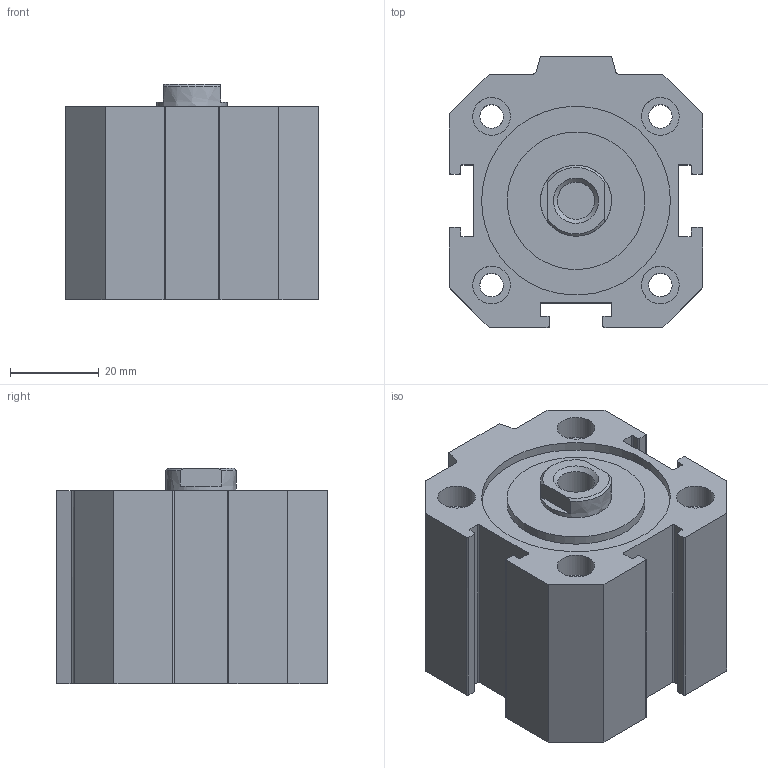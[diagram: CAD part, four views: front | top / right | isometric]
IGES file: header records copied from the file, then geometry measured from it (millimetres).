
Global section: file name: 1512_40_0010; native system: Autodesk Inventor 2014; preprocessor: unknown; author: A. Manieri; date: 20160907.120733; units: millimetre
Bounding box: 57 x 61 x 48.5 mm (x, y, z)
Volume: 107560.1 mm3; surface area: 33787.7 mm2
Topology: 2 solids, 2 shells, 116 faces, 296 edges, 202 vertices
Faces by surface type: bspline 116
